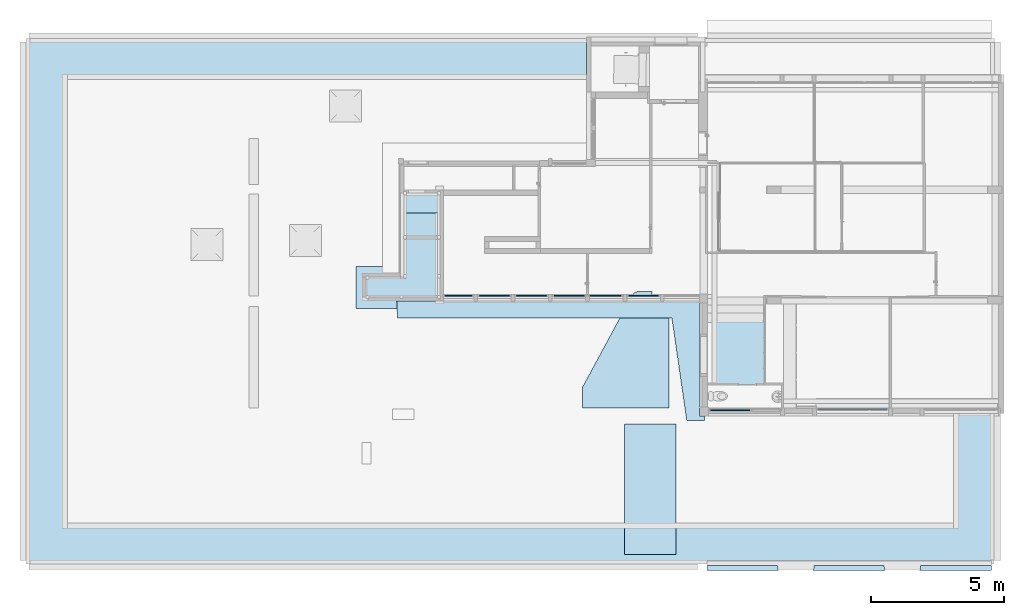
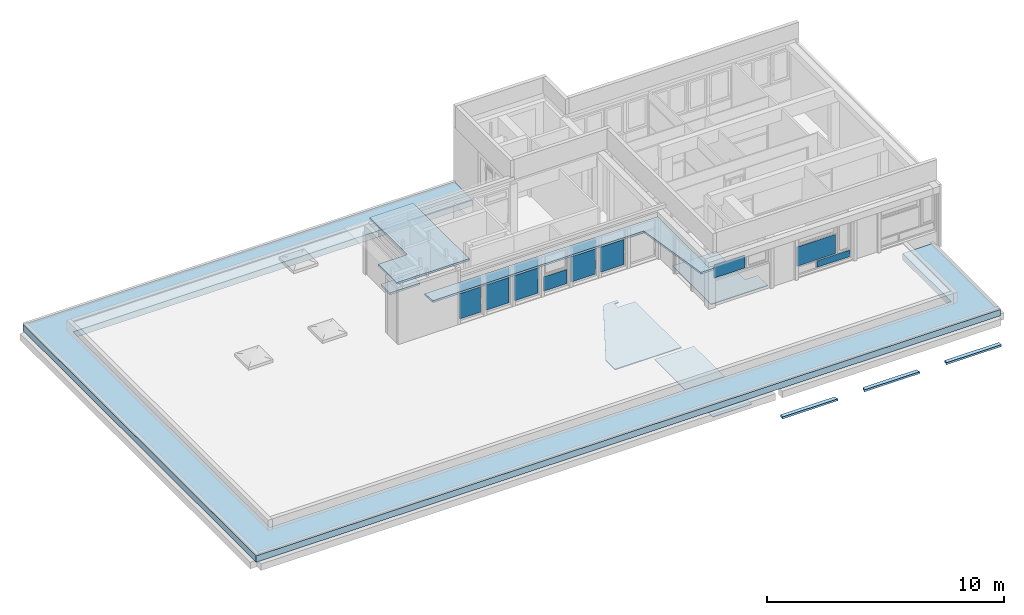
# One storey, part 18 of 49: 13 plates, 8 slabs, 11 elements without a shape of their own.
"""IFC4 building model written with IfcOpenShell, lengths in metres."""

from ifc_helpers import new_model, entity, si_unit, converted_unit, derived_unit, direction, frame, origin, place, context, subcontext, project, spatial, indexed_curve, outline, extrude, shape, source, transform, mapped, material, layer, layer_set, type_object, type_shapes, element, aggregate, save


model = new_model("IFC4")

# Units and contexts
model_context = context("Model", 3, precision=1e-05, world=origin(), true_north=direction((6.12303176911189e-17, 1.0)))
body_context = subcontext(model_context, "Body", "Model", "MODEL_VIEW")
footprint_context = subcontext(model_context, "FootPrint", "Model", "MODEL_VIEW")
ifc_project = project(units=[si_unit("LENGTHUNIT", "METRE"), si_unit("AREAUNIT", "SQUARE_METRE"), si_unit("VOLUMEUNIT", "CUBIC_METRE"), converted_unit("PLANEANGLEUNIT", "DEGREE", entity("IfcRatioMeasure", 0.0174532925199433), si_unit("PLANEANGLEUNIT", "RADIAN"), dimensions=[0, 0, 0, 0, 0, 0, 0]), si_unit("MASSUNIT", "GRAM", prefix="KILO"), derived_unit("MASSDENSITYUNIT", [(si_unit("MASSUNIT", "GRAM", prefix="KILO"), 1), (si_unit("LENGTHUNIT", "METRE"), -3)]), derived_unit("MOMENTOFINERTIAUNIT", [(si_unit("LENGTHUNIT", "METRE"), 4)]), si_unit("TIMEUNIT", "SECOND"), si_unit("FREQUENCYUNIT", "HERTZ"), si_unit("THERMODYNAMICTEMPERATUREUNIT", "DEGREE_CELSIUS"), derived_unit("THERMALTRANSMITTANCEUNIT", [(si_unit("MASSUNIT", "GRAM", prefix="KILO"), 1), (si_unit("THERMODYNAMICTEMPERATUREUNIT", "KELVIN"), -1), (si_unit("TIMEUNIT", "SECOND"), -3)]), derived_unit("VOLUMETRICFLOWRATEUNIT", [(si_unit("LENGTHUNIT", "METRE"), 3), (si_unit("TIMEUNIT", "SECOND"), -1)]), si_unit("ELECTRICCURRENTUNIT", "AMPERE"), si_unit("ELECTRICVOLTAGEUNIT", "VOLT"), si_unit("POWERUNIT", "WATT"), si_unit("FORCEUNIT", "NEWTON", prefix="KILO"), si_unit("ILLUMINANCEUNIT", "LUX"), si_unit("LUMINOUSFLUXUNIT", "LUMEN"), si_unit("LUMINOUSINTENSITYUNIT", "CANDELA"), derived_unit("USERDEFINED", [(si_unit("MASSUNIT", "GRAM", prefix="KILO"), -1), (si_unit("LENGTHUNIT", "METRE"), -2), (si_unit("TIMEUNIT", "SECOND"), 3), (si_unit("LUMINOUSFLUXUNIT", "LUMEN"), 1)]), derived_unit("LINEARVELOCITYUNIT", [(si_unit("LENGTHUNIT", "METRE"), 1), (si_unit("TIMEUNIT", "SECOND"), -1)]), si_unit("PRESSUREUNIT", "PASCAL"), derived_unit("USERDEFINED", [(si_unit("LENGTHUNIT", "METRE"), -2), (si_unit("MASSUNIT", "GRAM", prefix="KILO"), 1), (si_unit("TIMEUNIT", "SECOND"), -2)]), derived_unit("LINEARFORCEUNIT", [(si_unit("MASSUNIT", "GRAM", prefix="KILO"), 1), (si_unit("LENGTHUNIT", "METRE"), 1), (si_unit("TIMEUNIT", "SECOND"), -2), (si_unit("LENGTHUNIT", "METRE"), -1)]), derived_unit("PLANARFORCEUNIT", [(si_unit("MASSUNIT", "GRAM", prefix="KILO"), 1), (si_unit("LENGTHUNIT", "METRE"), 1), (si_unit("TIMEUNIT", "SECOND"), -2), (si_unit("LENGTHUNIT", "METRE"), -2)])], contexts=[model_context])

# Site, building, storey
site_placement = place(None, origin())
site = spatial("IfcSite", under=ifc_project, at=site_placement, Name="Default", CompositionType="ELEMENT")
building_placement = place(site_placement, origin())
building = spatial("IfcBuilding", under=site, at=building_placement, Name="HOTEL CONSULAIRE BOULOGNE SUR MER", CompositionType="ELEMENT")
storey_placement = place(building_placement, frame((0.0, 0.0, 6.81974152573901)))
storey = spatial("IfcBuildingStorey", under=building, at=storey_placement, Name="Niveau 2", CompositionType="ELEMENT", Elevation=6.81974152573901)

# Slabs
ifc_material_1 = material(Name="Plâtre", Category="Plâtre")
ifc_layer_1 = layer(ifc_material_1, 0.05, Name="Plâtre", Category="Plâtre")
ifc_layer_set_1 = layer_set([ifc_layer_1], Name="Sol:plâtre 50")
slab_type_1 = type_object("IfcSlabType", Name="Sol:plâtre 50", PredefinedType="FLOOR", material=ifc_layer_set_1)
slab_1_placement = place(storey_placement, origin())
element("IfcSlab", 1, at=slab_1_placement, inside=storey, type_object=slab_type_1, material=ifc_layer_set_1, Name="Sol:plâtre 50", ObjectType="Sol:plâtre 50", PredefinedType="FLOOR", context=body_context, shape_type="SweptSolid", body=[
    extrude(outline(indexed_curve([(-2.99643780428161, -2.03980684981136), (-2.20134033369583, -2.03980684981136), (1.23466672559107, -0.183824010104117), (1.25814262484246, -0.16946206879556), (1.279941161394, -0.152663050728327), (1.29981041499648, -0.133621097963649), (1.31752076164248, -0.112556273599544), (1.33286752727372, -0.0897120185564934), (1.34567335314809, -0.0653523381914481), (1.35579024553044, -0.0397587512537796), (1.36310128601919, -0.0132270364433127), (1.36752198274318, 0.0139361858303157), (1.36900124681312, 0.0414169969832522), (1.36900124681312, 0.561326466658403), (1.20538668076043, 0.561326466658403), (1.20538668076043, 0.356326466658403), (0.905386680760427, 0.356326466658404), (0.905386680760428, 1.19335742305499), (-2.9964378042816, 1.19335742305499), (-2.99643780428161, -2.03980684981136)], self_intersect=False)), frame((9.03012045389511, -20.8263233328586, -1.09121454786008), z_axis=(0.0, 0.0, -1.0), x_axis=(0.0, 1.0, 0.0)), (0.0, 0.0, 1.0), 0.0499999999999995),
])
ifc_material_2 = material(Name="Résineux, bois de construction", Category="Bois")
ifc_layer_2 = layer(ifc_material_2, 0.03, Name="Résineux, bois de construction", Category="Bois")
ifc_layer_set_2 = layer_set([ifc_layer_2], Name="Sol:bois 30 mm")
slab_type_2 = type_object("IfcSlabType", Name="Sol:bois 30 mm", PredefinedType="FLOOR", material=ifc_layer_set_2)
slab_2_placement = place(storey_placement, origin())
element("IfcSlab", 2, at=slab_2_placement, inside=storey, type_object=slab_type_2, material=ifc_layer_set_2, Name="Sol:bois 30 mm", ObjectType="Sol:bois 30 mm", PredefinedType="FLOOR", context=body_context, shape_type="SweptSolid", body=[
    extrude(outline(indexed_curve([(-2.45424532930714, -0.966), (2.45424532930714, -0.966), (2.45424532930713, 0.966), (-2.45424532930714, 0.966), (-2.45424532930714, -0.966)], self_intersect=False)), frame((9.5317347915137, -26.874106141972, -0.765798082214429), z_axis=(0.0, 0.0, -1.0), x_axis=(0.0, 1.0, 0.0)), (0.0, 0.0, 1.0), 0.0299999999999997),
])

# Curtain wall, plates
curtain_wall_type = type_object("IfcCurtainWallType", Name="Mur-rideau:Simple panneau", PredefinedType="NOTDEFINED")
curtain_wall_1_placement = place(storey_placement, frame((0.0, 0.0, -6.81974152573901)))
curtain_wall_1 = element("IfcCurtainWall", 3, at=curtain_wall_1_placement, inside=storey, type_object=curtain_wall_type, Name="Mur-rideau:Simple panneau", ObjectType="Mur-rideau:Simple panneau", PredefinedType="NOTDEFINED")
ifc_material_3 = material(Name="Verre", Category="Verre")
ifc_layer_3 = layer(ifc_material_3, 0.04, Name="Verre", Category="Verre")
ifc_layer_set_3 = layer_set([ifc_layer_3], Name="Mur-rideau:Simple panneau")
plate_type_1 = type_object("IfcPlateType", Name="Panneau système:Vitré", PredefinedType="CURTAIN_PANEL", material=ifc_layer_set_3)
shared_shape_1 = source(origin(), body_context, "Body", "SweptSolid", [
    extrude(outline(indexed_curve([(-0.02, -0.513370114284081), (0.02, -0.513370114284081), (0.02, 0.513370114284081), (-0.02, 0.513370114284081), (-0.02, -0.513370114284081)], self_intersect=False)), frame((0.513370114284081, 0.02, 0.0), z_axis=(0.0, 0.0, 1.0), x_axis=(0.0, 1.0, 0.0)), (0.0, 0.0, 1.0), 1.302),
])
shared_shape_2 = source(frame((-0.513370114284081, 0.00500000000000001, 0.0)), footprint_context, "FootPrint", "Curve2D", [
    entity("IfcIndexedPolyCurve", entity("IfcCartesianPointList2D", [[0.669845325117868, 0.003476], [0.669845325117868, 0.043476], [-0.356894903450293, 0.043476], [-0.356894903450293, 0.003476], [0.669845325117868, 0.003476]]), None, False),
])
type_shapes(plate_type_1, [shared_shape_1, shared_shape_2])
plate_1_placement = place(curtain_wall_1_placement, frame((1.81747131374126, -19.6269143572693, 7.57974152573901)))
plate_1 = element("IfcPlate", 4, at=plate_1_placement, type_object=plate_type_1, material=ifc_layer_set_3, Name="Panneau système:Vitré", ObjectType="Panneau système:Vitré", PredefinedType="CURTAIN_PANEL", shapes=[
    shape(body_context, "Body", "MappedRepresentation", [mapped(shared_shape_1, transform((0.0, 0.0, 0.0), scale=1.0))]),
    shape(body_context, "Body", "MappedRepresentation", [mapped(shared_shape_2, transform((0.0, 0.0, 0.0), scale=1.0))]),
])
plate_type_2 = type_object("IfcPlateType", Name="Panneau système:Vitré", PredefinedType="CURTAIN_PANEL", material=ifc_layer_set_3)
shared_shape_3 = source(origin(), body_context, "Body", "SweptSolid", [
    extrude(outline(indexed_curve([(-0.02, -0.513370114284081), (0.02, -0.513370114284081), (0.02, 0.513370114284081), (-0.02, 0.513370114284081), (-0.02, -0.513370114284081)], self_intersect=False)), frame((0.513370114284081, 0.02, 0.0), z_axis=(0.0, 0.0, 1.0), x_axis=(0.0, 1.0, 0.0)), (0.0, 0.0, 1.0), 0.48689394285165),
])
shared_shape_4 = source(frame((-0.513370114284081, 0.00500000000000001, 0.0)), footprint_context, "FootPrint", "Curve2D", [
    entity("IfcIndexedPolyCurve", entity("IfcCartesianPointList2D", [[0.669845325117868, 0.003476], [0.669845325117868, 0.043476], [-0.356894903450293, 0.043476], [-0.356894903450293, 0.003476], [0.669845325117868, 0.003476]]), None, False),
])
type_shapes(plate_type_2, [shared_shape_3, shared_shape_4])
plate_2_placement = place(curtain_wall_1_placement, frame((1.81747131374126, -19.6269143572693, 8.96174152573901)))
plate_2 = element("IfcPlate", 5, at=plate_2_placement, type_object=plate_type_2, material=ifc_layer_set_3, Name="Panneau système:Vitré", ObjectType="Panneau système:Vitré", PredefinedType="CURTAIN_PANEL", shapes=[
    shape(body_context, "Body", "MappedRepresentation", [mapped(shared_shape_3, transform((0.0, 0.0, 0.0), scale=1.0))]),
    shape(body_context, "Body", "MappedRepresentation", [mapped(shared_shape_4, transform((0.0, 0.0, 0.0), scale=1.0))]),
])
aggregate(curtain_wall_1, [plate_1, plate_2])

# Curtain wall, plate
curtain_wall_2_placement = place(storey_placement, frame((0.0, 0.0, -6.81974152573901)))
curtain_wall_2 = element("IfcCurtainWall", 6, at=curtain_wall_2_placement, inside=storey, type_object=curtain_wall_type, Name="Mur-rideau:Simple panneau", ObjectType="Mur-rideau:Simple panneau", PredefinedType="NOTDEFINED")
plate_type_3 = type_object("IfcPlateType", Name="Panneau système:Vitré", PredefinedType="CURTAIN_PANEL", material=ifc_layer_set_3)
shared_shape_5 = source(origin(), body_context, "Body", "SweptSolid", [
    extrude(outline(indexed_curve([(-0.02, -0.57), (0.02, -0.57), (0.02, 0.57), (-0.02, 0.57), (-0.02, -0.57)], self_intersect=False)), frame((0.57, 0.02, 0.0), z_axis=(0.0, 0.0, 1.0), x_axis=(0.0, 1.0, 0.0)), (0.0, 0.0, 1.0), 1.302),
])
shared_shape_6 = source(frame((-0.569999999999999, 0.00500000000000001, 0.0)), footprint_context, "FootPrint", "Curve2D", [
    entity("IfcIndexedPolyCurve", entity("IfcCartesianPointList2D", [[0.743736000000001, 0.003476], [0.743736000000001, 0.043476], [-0.396263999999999, 0.043476], [-0.396263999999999, 0.003476], [0.743736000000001, 0.003476]]), None, False),
])
type_shapes(plate_type_3, [shared_shape_5, shared_shape_6])
plate_3_placement = place(curtain_wall_2_placement, frame((3.10421154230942, -19.6269143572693, 7.57974152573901)))
plate_3 = element("IfcPlate", 7, at=plate_3_placement, type_object=plate_type_3, material=ifc_layer_set_3, Name="Panneau système:Vitré", ObjectType="Panneau système:Vitré", PredefinedType="CURTAIN_PANEL", shapes=[
    shape(body_context, "Body", "MappedRepresentation", [mapped(shared_shape_5, transform((0.0, 0.0, 0.0), scale=1.0))]),
    shape(body_context, "Body", "MappedRepresentation", [mapped(shared_shape_6, transform((0.0, 0.0, 0.0), scale=1.0))]),
])

curtain_wall_3_placement = place(storey_placement, frame((0.0, 0.0, -6.81974152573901)))
curtain_wall_3 = element("IfcCurtainWall", 8, at=curtain_wall_3_placement, inside=storey, type_object=curtain_wall_type, Name="Mur-rideau:Simple panneau", ObjectType="Mur-rideau:Simple panneau", PredefinedType="NOTDEFINED")
plate_4_placement = place(curtain_wall_3_placement, frame((4.50421154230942, -19.6269143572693, 7.57974152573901)))
plate_4 = element("IfcPlate", 9, at=plate_4_placement, type_object=plate_type_3, material=ifc_layer_set_3, Name="Panneau système:Vitré", ObjectType="Panneau système:Vitré", PredefinedType="CURTAIN_PANEL", shapes=[
    shape(body_context, "Body", "MappedRepresentation", [mapped(shared_shape_5, transform((0.0, 0.0, 0.0), scale=1.0))]),
    shape(body_context, "Body", "MappedRepresentation", [mapped(shared_shape_6, transform((0.0, 0.0, 0.0), scale=1.0))]),
])

curtain_wall_4_placement = place(storey_placement, frame((0.0, 0.0, -6.81974152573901)))
curtain_wall_4 = element("IfcCurtainWall", 10, at=curtain_wall_4_placement, inside=storey, type_object=curtain_wall_type, Name="Mur-rideau:Simple panneau", ObjectType="Mur-rideau:Simple panneau", PredefinedType="NOTDEFINED")
plate_5_placement = place(curtain_wall_4_placement, frame((8.70421154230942, -19.6269143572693, 7.57974152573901)))
plate_5 = element("IfcPlate", 11, at=plate_5_placement, type_object=plate_type_3, material=ifc_layer_set_3, Name="Panneau système:Vitré", ObjectType="Panneau système:Vitré", PredefinedType="CURTAIN_PANEL", shapes=[
    shape(body_context, "Body", "MappedRepresentation", [mapped(shared_shape_5, transform((0.0, 0.0, 0.0), scale=1.0))]),
    shape(body_context, "Body", "MappedRepresentation", [mapped(shared_shape_6, transform((0.0, 0.0, 0.0), scale=1.0))]),
])
aggregate(curtain_wall_4, [plate_5])

# Plate
plate_type_4 = type_object("IfcPlateType", Name="Panneau système:Vitré", PredefinedType="CURTAIN_PANEL", material=ifc_layer_set_3)
shared_shape_7 = source(origin(), body_context, "Body", "SweptSolid", [
    extrude(outline(indexed_curve([(-0.02, -0.57), (0.02, -0.57), (0.02, 0.57), (-0.02, 0.57), (-0.02, -0.57)], self_intersect=False)), frame((0.57, 0.02, 0.0), z_axis=(0.0, 0.0, 1.0), x_axis=(0.0, 1.0, 0.0)), (0.0, 0.0, 1.0), 0.48689394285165),
])
shared_shape_8 = source(frame((-0.569999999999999, 0.00500000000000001, 0.0)), footprint_context, "FootPrint", "Curve2D", [
    entity("IfcIndexedPolyCurve", entity("IfcCartesianPointList2D", [[0.743736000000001, 0.003476], [0.743736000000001, 0.043476], [-0.396263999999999, 0.043476], [-0.396263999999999, 0.003476], [0.743736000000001, 0.003476]]), None, False),
])
type_shapes(plate_type_4, [shared_shape_7, shared_shape_8])
plate_6_placement = place(curtain_wall_2_placement, frame((3.10421154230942, -19.6269143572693, 8.96174152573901)))
plate_6 = element("IfcPlate", 12, at=plate_6_placement, type_object=plate_type_4, material=ifc_layer_set_3, Name="Panneau système:Vitré", ObjectType="Panneau système:Vitré", PredefinedType="CURTAIN_PANEL", shapes=[
    shape(body_context, "Body", "MappedRepresentation", [mapped(shared_shape_7, transform((0.0, 0.0, 0.0), scale=1.0))]),
    shape(body_context, "Body", "MappedRepresentation", [mapped(shared_shape_8, transform((0.0, 0.0, 0.0), scale=1.0))]),
])

aggregate(curtain_wall_2, [plate_3, plate_6])

plate_type_5 = type_object("IfcPlateType", Name="Panneau système:Vitré", PredefinedType="CURTAIN_PANEL", material=ifc_layer_set_3)
shared_shape_9 = source(origin(), body_context, "Body", "SweptSolid", [
    extrude(outline(indexed_curve([(-0.02, -0.569999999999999), (0.02, -0.569999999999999), (0.02, 0.569999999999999), (-0.02, 0.569999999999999), (-0.02, -0.569999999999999)], self_intersect=False)), frame((0.569999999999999, 0.02, 0.0), z_axis=(0.0, 0.0, 1.0), x_axis=(0.0, 1.0, 0.0)), (0.0, 0.0, 1.0), 0.479999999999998),
])
shared_shape_10 = source(frame((-0.569999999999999, 0.00500000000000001, 0.0)), footprint_context, "FootPrint", "Curve2D", [
    entity("IfcIndexedPolyCurve", entity("IfcCartesianPointList2D", [[0.743735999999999, 0.003476], [0.743735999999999, 0.043476], [-0.396263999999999, 0.043476], [-0.396263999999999, 0.003476], [0.743735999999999, 0.003476]]), None, False),
])
type_shapes(plate_type_5, [shared_shape_9, shared_shape_10])
plate_7_placement = place(curtain_wall_3_placement, frame((4.50421154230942, -19.6269143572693, 8.96174152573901)))
plate_7 = element("IfcPlate", 13, at=plate_7_placement, type_object=plate_type_5, material=ifc_layer_set_3, Name="Panneau système:Vitré", ObjectType="Panneau système:Vitré", PredefinedType="CURTAIN_PANEL", shapes=[
    shape(body_context, "Body", "MappedRepresentation", [mapped(shared_shape_9, transform((0.0, 0.0, 0.0), scale=1.0))]),
    shape(body_context, "Body", "MappedRepresentation", [mapped(shared_shape_10, transform((0.0, 0.0, 0.0), scale=1.0))]),
])

aggregate(curtain_wall_3, [plate_4, plate_7])

# Curtain wall, plate
curtain_wall_5_placement = place(storey_placement, frame((0.0, 0.0, -6.81974152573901)))
curtain_wall_5 = element("IfcCurtainWall", 14, at=curtain_wall_5_placement, inside=storey, type_object=curtain_wall_type, Name="Mur-rideau:Simple panneau", ObjectType="Mur-rideau:Simple panneau", PredefinedType="NOTDEFINED")
plate_type_6 = type_object("IfcPlateType", Name="Panneau système:Vitré", PredefinedType="CURTAIN_PANEL", material=ifc_layer_set_3)
shared_shape_11 = source(origin(), body_context, "Body", "SweptSolid", [
    extrude(outline(indexed_curve([(-0.02, -0.58348261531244), (0.02, -0.58348261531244), (0.02, 0.58348261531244), (-0.02, 0.58348261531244), (-0.02, -0.58348261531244)], self_intersect=False)), frame((0.58348261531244, 0.02, 0.0), z_axis=(0.0, 0.0, 1.0), x_axis=(0.0, 1.0, 0.0)), (0.0, 0.0, 1.0), 0.731000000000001),
])
shared_shape_12 = source(frame((-0.58348261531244, 0.00500000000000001, 0.0)), footprint_context, "FootPrint", "Curve2D", [
    entity("IfcIndexedPolyCurve", entity("IfcCartesianPointList2D", [[0.761328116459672, 0.003476], [0.761328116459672, 0.043476], [-0.405637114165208, 0.043476], [-0.405637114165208, 0.003476], [0.761328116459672, 0.003476]]), None, False),
])
type_shapes(plate_type_6, [shared_shape_11, shared_shape_12])
plate_8_placement = place(curtain_wall_5_placement, frame((5.90421154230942, -19.6269143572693, 7.57974152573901)))
plate_8 = element("IfcPlate", 15, at=plate_8_placement, type_object=plate_type_6, material=ifc_layer_set_3, Name="Panneau système:Vitré", ObjectType="Panneau système:Vitré", PredefinedType="CURTAIN_PANEL", shapes=[
    shape(body_context, "Body", "MappedRepresentation", [mapped(shared_shape_11, transform((0.0, 0.0, 0.0), scale=1.0))]),
    shape(body_context, "Body", "MappedRepresentation", [mapped(shared_shape_12, transform((0.0, 0.0, 0.0), scale=1.0))]),
])
aggregate(curtain_wall_5, [plate_8])

# Curtain wall, plates
curtain_wall_6_placement = place(storey_placement, frame((0.0, 0.0, -6.81974152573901)))
curtain_wall_6 = element("IfcCurtainWall", 16, at=curtain_wall_6_placement, inside=storey, type_object=curtain_wall_type, Name="Mur-rideau:Simple panneau", ObjectType="Mur-rideau:Simple panneau", PredefinedType="NOTDEFINED")
plate_type_7 = type_object("IfcPlateType", Name="Panneau système:Vitré", PredefinedType="CURTAIN_PANEL", material=ifc_layer_set_3)
shared_shape_13 = source(origin(), body_context, "Body", "SweptSolid", [
    extrude(outline(indexed_curve([(-0.02, -0.591517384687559), (0.02, -0.591517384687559), (0.02, 0.591517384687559), (-0.02, 0.591517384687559), (-0.02, -0.591517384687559)], self_intersect=False)), frame((0.591517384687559, 0.02, 0.0), z_axis=(0.0, 0.0, 1.0), x_axis=(0.0, 1.0, 0.0)), (0.0, 0.0, 1.0), 1.302),
])
shared_shape_14 = source(frame((-0.591517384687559, 0.00500000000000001, 0.0)), footprint_context, "FootPrint", "Curve2D", [
    entity("IfcIndexedPolyCurve", entity("IfcCartesianPointList2D", [[0.771811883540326, 0.003476], [0.771811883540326, 0.043476], [-0.411222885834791, 0.043476], [-0.411222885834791, 0.003476], [0.771811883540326, 0.003476]]), None, False),
])
type_shapes(plate_type_7, [shared_shape_13, shared_shape_14])
plate_9_placement = place(curtain_wall_6_placement, frame((7.2611767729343, -19.6269143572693, 7.57974152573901)))
plate_9 = element("IfcPlate", 17, at=plate_9_placement, type_object=plate_type_7, material=ifc_layer_set_3, Name="Panneau système:Vitré", ObjectType="Panneau système:Vitré", PredefinedType="CURTAIN_PANEL", shapes=[
    shape(body_context, "Body", "MappedRepresentation", [mapped(shared_shape_13, transform((0.0, 0.0, 0.0), scale=1.0))]),
    shape(body_context, "Body", "MappedRepresentation", [mapped(shared_shape_14, transform((0.0, 0.0, 0.0), scale=1.0))]),
])
plate_type_8 = type_object("IfcPlateType", Name="Panneau système:Vitré", PredefinedType="CURTAIN_PANEL", material=ifc_layer_set_3)
shared_shape_15 = source(origin(), body_context, "Body", "SweptSolid", [
    extrude(outline(indexed_curve([(-0.02, -0.591517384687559), (0.02, -0.591517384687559), (0.02, 0.591517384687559), (-0.02, 0.591517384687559), (-0.02, -0.591517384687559)], self_intersect=False)), frame((0.591517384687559, 0.02, 0.0), z_axis=(0.0, 0.0, 1.0), x_axis=(0.0, 1.0, 0.0)), (0.0, 0.0, 1.0), 0.48689394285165),
])
shared_shape_16 = source(frame((-0.591517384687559, 0.00500000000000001, 0.0)), footprint_context, "FootPrint", "Curve2D", [
    entity("IfcIndexedPolyCurve", entity("IfcCartesianPointList2D", [[0.771811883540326, 0.003476], [0.771811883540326, 0.043476], [-0.411222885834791, 0.043476], [-0.411222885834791, 0.003476], [0.771811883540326, 0.003476]]), None, False),
])
type_shapes(plate_type_8, [shared_shape_15, shared_shape_16])
plate_10_placement = place(curtain_wall_6_placement, frame((7.2611767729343, -19.6269143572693, 8.96174152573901)))
plate_10 = element("IfcPlate", 18, at=plate_10_placement, type_object=plate_type_8, material=ifc_layer_set_3, Name="Panneau système:Vitré", ObjectType="Panneau système:Vitré", PredefinedType="CURTAIN_PANEL", shapes=[
    shape(body_context, "Body", "MappedRepresentation", [mapped(shared_shape_15, transform((0.0, 0.0, 0.0), scale=1.0))]),
    shape(body_context, "Body", "MappedRepresentation", [mapped(shared_shape_16, transform((0.0, 0.0, 0.0), scale=1.0))]),
])
aggregate(curtain_wall_6, [plate_9, plate_10])

# Slab
ifc_material_4 = material(Name="moquette grenat")
ifc_layer_4 = layer(ifc_material_4, 0.035, Name="moquette grenat")
ifc_layer_set_4 = layer_set([ifc_layer_4], Name="Sol:Moquette grenat")
slab_type_3 = type_object("IfcSlabType", Name="Sol:Moquette grenat", PredefinedType="FLOOR", material=ifc_layer_set_4)
slab_3_placement = place(storey_placement, origin())
element("IfcSlab", 19, at=slab_3_placement, inside=storey, type_object=slab_type_3, material=ifc_layer_set_4, Name="Sol:Moquette grenat", ObjectType="Sol:Moquette grenat", PredefinedType="FLOOR", context=body_context, shape_type="SweptSolid", body=[
    extrude(outline(indexed_curve([(-1.37656603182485, -1.63569043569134), (1.895624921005, -1.63569043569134), (1.89562492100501, 0.501415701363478), (-0.51905888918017, 0.501415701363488), (-0.519058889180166, 1.13427473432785), (-1.37656603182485, 1.13427473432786), (-1.37656603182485, -1.63569043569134)], self_intersect=False)), frame((13.3076339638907, -22.450534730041, 0.63), z_axis=(0.0, 0.0, -1.0), x_axis=(0.0, 1.0, 0.0)), (0.0, 0.0, 1.0), 0.0349999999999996),
])

# Curtain wall, plates
curtain_wall_7_placement = place(storey_placement, frame((0.0, 0.0, -6.81974152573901)))
curtain_wall_7 = element("IfcCurtainWall", 20, at=curtain_wall_7_placement, inside=storey, type_object=curtain_wall_type, Name="Mur-rideau:Simple panneau", ObjectType="Mur-rideau:Simple panneau", PredefinedType="NOTDEFINED")
plate_type_9 = type_object("IfcPlateType", Name="Panneau système:Vitré", PredefinedType="CURTAIN_PANEL", material=ifc_layer_set_3)
shared_shape_17 = source(origin(), body_context, "Body", "SweptSolid", [
    extrude(outline(indexed_curve([(-0.168, -0.860333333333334), (0.168, -0.860333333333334), (0.168, 0.105666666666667), (0.168, 0.754666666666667), (-0.168, 0.754666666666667), (-0.168, 0.105666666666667), (-0.168, -0.860333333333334)], self_intersect=False)), frame((0.860333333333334, 0.0, 0.168), z_axis=(0.0, 1.0, 0.0), x_axis=(0.0, 0.0, 1.0)), (0.0, 0.0, 1.0), 0.04),
])
shared_shape_18 = source(frame((-0.8075, 0.00499999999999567, 0.0)), footprint_context, "FootPrint", "Curve2D", [
    entity("IfcIndexedPolyCurve", entity("IfcCartesianPointList2D", [[-0.561374, 0.00347599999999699], [-0.561374, 0.00347599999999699], [0.404626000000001, 0.00347599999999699], [1.053626, 0.00347599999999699], [1.053626, 0.00347599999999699], [0.404626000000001, 0.00347599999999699], [-0.561374, 0.00347599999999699]]), None, False),
])
type_shapes(plate_type_9, [shared_shape_17, shared_shape_18])
plate_11_placement = place(curtain_wall_7_placement, frame((16.7920413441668, -23.8883633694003, 7.58374152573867)))
plate_11 = element("IfcPlate", 21, at=plate_11_placement, type_object=plate_type_9, material=ifc_layer_set_3, Name="Panneau système:Vitré", ObjectType="Panneau système:Vitré", PredefinedType="CURTAIN_PANEL", shapes=[
    shape(body_context, "Body", "MappedRepresentation", [mapped(shared_shape_17, transform((0.0, 0.0, 0.0), scale=1.0))]),
    shape(body_context, "Body", "MappedRepresentation", [mapped(shared_shape_18, transform((0.0, 0.0, 0.0), scale=1.0))]),
])
plate_type_10 = type_object("IfcPlateType", Name="Panneau système:Vitré", PredefinedType="CURTAIN_PANEL", material=ifc_layer_set_3)
shared_shape_19 = source(origin(), body_context, "Body", "SweptSolid", [
    extrude(outline(indexed_curve([(-0.495, -0.945333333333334), (0.495, -0.945333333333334), (0.495, -0.00533333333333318), (0.495, 0.950666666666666), (-0.495, 0.950666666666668), (-0.495, -0.00533333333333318), (-0.495, -0.945333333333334)], self_intersect=False)), frame((0.945333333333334, 0.0, 0.495), z_axis=(0.0, 1.0, 0.0), x_axis=(0.0, 0.0, 1.0)), (0.0, 0.0, 1.0), 0.04),
])
shared_shape_20 = source(frame((-0.948000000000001, 0.00500000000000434, 0.0)), footprint_context, "FootPrint", "Curve2D", [
    entity("IfcIndexedPolyCurve", entity("IfcCartesianPointList2D", [[-0.6590496, 0.00347600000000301], [-0.6590496, 0.00347600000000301], [0.2809504, 0.00347600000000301], [1.2369504, 0.00347600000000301], [1.2369504, 0.00347600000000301], [0.2809504, 0.00347600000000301], [-0.6590496, 0.00347600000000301]]), None, False),
])
type_shapes(plate_type_10, [shared_shape_19, shared_shape_20])
plate_12_placement = place(curtain_wall_7_placement, frame((15.8220413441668, -23.8883633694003, 7.97974152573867)))
plate_12 = element("IfcPlate", 22, at=plate_12_placement, type_object=plate_type_10, material=ifc_layer_set_3, Name="Panneau système:Vitré", ObjectType="Panneau système:Vitré", PredefinedType="CURTAIN_PANEL", shapes=[
    shape(body_context, "Body", "MappedRepresentation", [mapped(shared_shape_19, transform((0.0, 0.0, 0.0), scale=1.0))]),
    shape(body_context, "Body", "MappedRepresentation", [mapped(shared_shape_20, transform((0.0, 0.0, 0.0), scale=1.0))]),
])
aggregate(curtain_wall_7, [plate_11, plate_12])

# Curtain wall, plate
curtain_wall_8_placement = place(storey_placement, frame((0.0, 0.0, -6.81974152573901)))
curtain_wall_8 = element("IfcCurtainWall", 23, at=curtain_wall_8_placement, inside=storey, type_object=curtain_wall_type, Name="Mur-rideau:Simple panneau", ObjectType="Mur-rideau:Simple panneau", PredefinedType="NOTDEFINED")
plate_type_11 = type_object("IfcPlateType", Name="Panneau système:Vitré", PredefinedType="CURTAIN_PANEL", material=ifc_layer_set_3)
shared_shape_21 = source(origin(), body_context, "Body", "SweptSolid", [
    extrude(outline(indexed_curve([(-0.02, -0.749000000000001), (0.02, -0.749000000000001), (0.02, 0.749000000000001), (-0.02, 0.749000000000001), (-0.02, -0.749000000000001)], self_intersect=False)), frame((0.749000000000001, 0.02, 0.0), z_axis=(0.0, 0.0, 1.0), x_axis=(0.0, 1.0, 0.0)), (0.0, 0.0, 1.0), 0.652628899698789),
])
shared_shape_22 = source(frame((-0.749000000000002, 0.00500000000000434, 0.0)), footprint_context, "FootPrint", "Curve2D", [
    entity("IfcIndexedPolyCurve", entity("IfcCartesianPointList2D", [[0.9772952, 0.00347600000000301], [0.9772952, 0.043476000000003], [-0.520704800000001, 0.043476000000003], [-0.520704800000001, 0.00347600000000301], [0.9772952, 0.00347600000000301]]), None, False),
])
type_shapes(plate_type_11, [shared_shape_21, shared_shape_22])
plate_13_placement = place(curtain_wall_8_placement, frame((11.7769086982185, -23.9221007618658, 8.81911262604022)))
plate_13 = element("IfcPlate", 24, at=plate_13_placement, type_object=plate_type_11, material=ifc_layer_set_3, Name="Panneau système:Vitré", ObjectType="Panneau système:Vitré", PredefinedType="CURTAIN_PANEL", shapes=[
    shape(body_context, "Body", "MappedRepresentation", [mapped(shared_shape_21, transform((0.0, 0.0, 0.0), scale=1.0))]),
    shape(body_context, "Body", "MappedRepresentation", [mapped(shared_shape_22, transform((0.0, 0.0, 0.0), scale=1.0))]),
])
aggregate(curtain_wall_8, [plate_13])

# Roof, slab
roof_1_placement = place(storey_placement, frame((-1.50986188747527, -20.086757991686, 3.98499999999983)))
roof_1 = element("IfcRoof", 25, at=roof_1_placement, inside=storey, Name="Toit de base:Toit - 100 mm béton", ObjectType="Toit de base:Toit - 100 mm béton", PredefinedType="NOTDEFINED")
slab_type_4 = type_object("IfcSlabType", Name="Toit de base:Toit - 100 mm béton", PredefinedType="ROOF")
slab_4_placement = place(roof_1_placement, origin())
slab_4 = element("IfcSlab", 26, at=slab_4_placement, type_object=slab_type_4, Name="Toit de base:Toit - 100 mm béton", ObjectType="Toit de base:Toit - 100 mm béton", PredefinedType="NOTDEFINED", context=body_context, shape_type="SweptSolid", body=[
    extrude(outline(indexed_curve([(-1.7685, -2.373), (1.7685, -2.373), (1.7685, 2.373), (-0.351499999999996, 2.373), (-0.351500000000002, -0.798999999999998), (-1.7685, -0.798999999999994), (-1.7685, -2.373)], self_intersect=False)), frame((1.7685, 2.373, 0.0)), (0.0, 0.0, 1.0), 0.0999999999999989),
])
aggregate(roof_1, [slab_4])

roof_type_1 = type_object("IfcRoofType", Name="Toit de base:Toit - 100 mm béton", PredefinedType="NOTDEFINED")
roof_2_placement = place(storey_placement, frame((0.0114713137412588, -24.2993182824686, 2.723)))
roof_2 = element("IfcRoof", 27, at=roof_2_placement, inside=storey, type_object=roof_type_1, Name="Toit de base:Toit - 100 mm béton", ObjectType="Toit de base:Toit - 100 mm béton", PredefinedType="NOTDEFINED")
slab_type_5 = type_object("IfcSlabType", Name="Toit de base:Toit - 100 mm béton", PredefinedType="ROOF")
slab_5_placement = place(storey_placement, frame((0.0114713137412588, -24.2993182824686, 2.723)))
slab_5 = element("IfcSlab", 28, at=slab_5_placement, type_object=slab_type_5, Name="Toit de base:Toit - 100 mm béton:1", ObjectType="Toit de base:Toit - 100 mm béton", PredefinedType="ROOF", context=body_context, shape_type="SweptSolid", body=[
    extrude(outline(indexed_curve([(-3.31289173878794, -9.03577738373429), (-2.68189173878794, -9.03577738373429), (-2.14324035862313, 1.2423032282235), (1.73506310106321, 1.5999863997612), (1.76929081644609, 2.25309011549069), (1.59730931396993, 2.26210328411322), (1.58846767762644, 2.09339481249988), (1.58820599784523, 2.08840166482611), (1.28861713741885, 2.10410245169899), (1.28887881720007, 2.10909559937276), (-2.7178090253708, 2.31907721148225), (-3.31289173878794, -9.03577738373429)], self_intersect=False)), frame((9.19677752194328, 1.64894843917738, 0.0), z_axis=(0.0, 0.0, 1.0), x_axis=(0.0523359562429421, -0.998629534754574, 0.0)), (0.0, 0.0, 1.0), 0.1),
])
aggregate(roof_2, [slab_5])

roof_type_2 = type_object("IfcRoofType", Name="Toit de base:Toit - 200 mm 2", PredefinedType="NOTDEFINED")
roof_3_placement = place(storey_placement, frame((-13.9077173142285, -29.6748025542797, -0.187999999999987)))
roof_3 = element("IfcRoof", 29, at=roof_3_placement, inside=storey, type_object=roof_type_2, Name="Toit de base:Toit - 200 mm 2", ObjectType="Toit de base:Toit - 200 mm 2", PredefinedType="NOTDEFINED")
slab_type_6 = type_object("IfcSlabType", Name="Toit de base:Toit - 200 mm 2", PredefinedType="ROOF")
slab_6_placement = place(storey_placement, frame((-13.9077173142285, -29.6748025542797, -0.187999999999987)))
slab_6 = element("IfcSlab", 30, at=slab_6_placement, type_object=slab_type_6, Name="Toit de base:Toit - 200 mm 2:1", ObjectType="Toit de base:Toit - 200 mm 2", PredefinedType="ROOF", context=body_context, shape_type="SweptSolid", body=[
    extrude(outline(indexed_curve([(-6.4387701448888, -14.6760786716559), (-0.791068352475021, -14.6760786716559), (-0.791068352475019, -13.1653335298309), (-4.90181389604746, -13.1653335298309), (-4.90181389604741, 20.0874098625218), (11.7303986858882, 20.0874098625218), (11.7303986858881, 0.608561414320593), (13.2787939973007, 0.608561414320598), (13.2787939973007, 21.6452589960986), (-6.43877014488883, 21.6452589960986), (-6.43877014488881, -6.56893619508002), (-6.43877014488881, -6.74893619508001), (-6.43877014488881, -7.75088187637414), (-6.43877014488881, -7.93088187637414), (-6.4387701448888, -14.6760786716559)], self_intersect=False)), frame((21.6452589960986, 6.43877014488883, 0.0), z_axis=(0.0, 0.0, 1.0), x_axis=(0.0, 1.0, 0.0)), (0.0, 0.0, 1.0), 0.33),
])
aggregate(roof_3, [slab_6])

# Slabs
ifc_material_5 = material(Name="Béton, coulé sur place", Category="Béton")
ifc_layer_5 = layer(ifc_material_5, 0.1, Name="Béton, coulé sur place", Category="Béton")
ifc_layer_set_5 = layer_set([ifc_layer_5], Name="Sol:béton 100")
slab_type_7 = type_object("IfcSlabType", Name="Sol:béton 100", PredefinedType="FLOOR", material=ifc_layer_set_5)
slab_7_placement = place(storey_placement, origin())
element("IfcSlab", 31, at=slab_7_placement, inside=storey, type_object=slab_type_7, material=ifc_layer_set_5, Name="Sol:béton 100", ObjectType="Sol:béton 100", PredefinedType="FLOOR", context=body_context, shape_type="SweptSolid", body=[
    extrude(outline(indexed_curve([(-0.3785, -0.737918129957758), (0.378500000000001, -0.737918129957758), (0.3785, 0.737918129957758), (-0.378499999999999, 0.737918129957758), (-0.3785, -0.737918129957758)], self_intersect=False)), frame((0.954553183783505, -16.1337420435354, 0.78111121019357), z_axis=(0.0, 0.0, -1.0), x_axis=(0.0, 1.0, 0.0)), (0.0, 0.0, 1.0), 0.1),
])
slab_type_8 = type_object("IfcSlabType", Name="Sol:béton 100", PredefinedType="FLOOR", material=ifc_layer_set_5)
slab_8_placement = place(storey_placement, origin())
element("IfcSlab", 32, at=slab_8_placement, inside=storey, type_object=slab_type_8, material=ifc_layer_set_5, Name="Sol:béton 100", ObjectType="Sol:béton 100", PredefinedType="FLOOR", context=body_context, shape_type="SweptSolid", body=[
    extrude(outline(indexed_curve([(-0.714916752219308, 0.58679895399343), (1.19722305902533, -1.32534085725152), (1.33440177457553, -1.18816214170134), (-0.546388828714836, 0.692628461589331), (-0.591740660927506, 0.647276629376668), (-0.678578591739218, 0.58679895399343), (-0.714916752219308, 0.58679895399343)], self_intersect=False)), frame((13.4303603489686, -29.8274741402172, -1.59317902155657), z_axis=(0.0, 0.0, -1.0), x_axis=(-0.707106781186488, 0.707106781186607, 0.0)), (0.0, 0.0, -1.0), 0.1),
    extrude(outline(indexed_curve([(0.190259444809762, 1.30440911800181), (0.12712504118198, 1.31570621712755), (-0.337012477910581, -1.27814952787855), (-0.273878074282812, -1.28944662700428), (-0.174622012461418, -1.32614280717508), (-0.153854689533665, -1.35596193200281), (0.325900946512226, 1.32517644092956), (0.296081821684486, 1.30440911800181), (0.190259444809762, 1.30440911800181)], self_intersect=False)), frame((16.9859507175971, -29.8306776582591, -1.59317902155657), z_axis=(0.0, 0.0, -1.0), x_axis=(-0.176139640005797, -0.984365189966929, 0.0)), (0.0, 0.0, -1.0), 0.1),
    extrude(outline(indexed_curve([(0.679374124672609, -0.587594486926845), (0.715712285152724, -0.587594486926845), (-1.19881412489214, 1.32693192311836), (-1.33599284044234, 1.18975320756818), (0.547184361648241, -0.693423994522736), (0.592536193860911, -0.648072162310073), (0.679374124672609, -0.587594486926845)], self_intersect=False)), frame((20.5426661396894, -29.8274741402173, -1.59317902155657), z_axis=(0.0, 0.0, 1.0), x_axis=(-0.707106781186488, -0.707106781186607, 0.0)), (0.0, 0.0, 1.0), 0.1),
])

save(model, "model.ifc")
